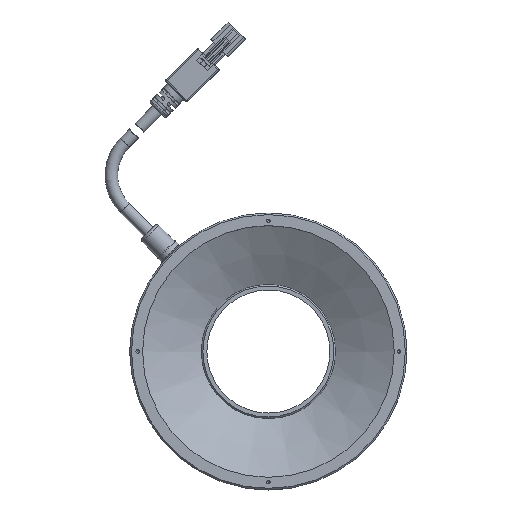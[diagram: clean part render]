
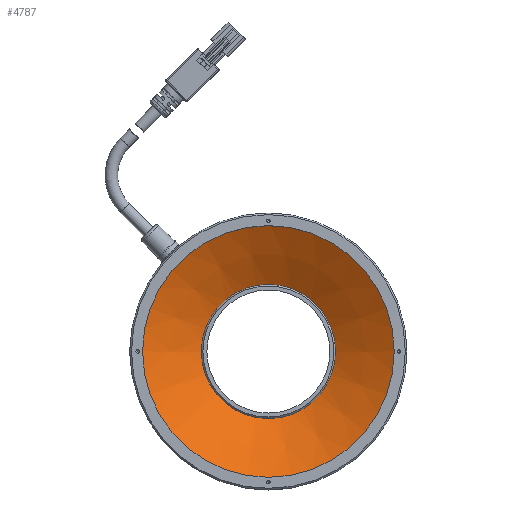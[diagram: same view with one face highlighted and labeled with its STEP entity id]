
A CAD part, top view. The second image highlights one B-rep face of the part: STEP entity #4787.
In plain terms, the highlighted conical face has half-angle 60 degrees and reference radius 21.093 mm.
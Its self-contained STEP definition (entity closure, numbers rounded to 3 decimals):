
#804 = EDGE_LOOP ( 'NONE', ( #6177 ) ) ;
#1214 = VERTEX_POINT ( 'NONE', #11904 ) ;
#1313 = FACE_OUTER_BOUND ( 'NONE', #8440, .T. ) ;
#2124 = AXIS2_PLACEMENT_3D ( 'NONE', #11051, #11995, #10121 ) ;
#4491 = CARTESIAN_POINT ( 'NONE',  ( -41.672, 0., 14.5 ) ) ;
#4787 = ADVANCED_FACE ( 'NONE', ( #1313, #6799 ), #7669, .F. ) ;
#5058 = CARTESIAN_POINT ( 'NONE',  ( 0., 0., 2.619 ) ) ;
#5100 = DIRECTION ( 'NONE',  ( 0., 0., 1. ) ) ;
#5219 = DIRECTION ( 'NONE',  ( 1., 0., 0. ) ) ;
#5869 = VERTEX_POINT ( 'NONE', #4491 ) ;
#5954 = CIRCLE ( 'NONE', #2124, 41.672 ) ;
#6122 = CARTESIAN_POINT ( 'NONE',  ( 0., 0., 3.027 ) ) ;
#6177 = ORIENTED_EDGE ( 'NONE', *, *, #10963, .T. ) ;
#6276 = AXIS2_PLACEMENT_3D ( 'NONE', #6122, #10798, #5219 ) ;
#6799 = FACE_BOUND ( 'NONE', #804, .T. ) ;
#7669 = CONICAL_SURFACE ( 'NONE', #9113, 21.093, 1.047 ) ;
#7952 = EDGE_CURVE ( 'NONE', #5869, #5869, #5954, .T. ) ;
#8440 = EDGE_LOOP ( 'NONE', ( #10434 ) ) ;
#9113 = AXIS2_PLACEMENT_3D ( 'NONE', #5058, #5100, #9723 ) ;
#9641 = CIRCLE ( 'NONE', #6276, 21.8 ) ;
#9723 = DIRECTION ( 'NONE',  ( 1., 0., 0. ) ) ;
#10121 = DIRECTION ( 'NONE',  ( -1., 0., 0. ) ) ;
#10434 = ORIENTED_EDGE ( 'NONE', *, *, #7952, .T. ) ;
#10798 = DIRECTION ( 'NONE',  ( 0., 0., -1. ) ) ;
#10963 = EDGE_CURVE ( 'NONE', #1214, #1214, #9641, .T. ) ;
#11051 = CARTESIAN_POINT ( 'NONE',  ( 0., 0., 14.5 ) ) ;
#11904 = CARTESIAN_POINT ( 'NONE',  ( 21.8, 0., 3.027 ) ) ;
#11995 = DIRECTION ( 'NONE',  ( 0., 0., 1. ) ) ;
